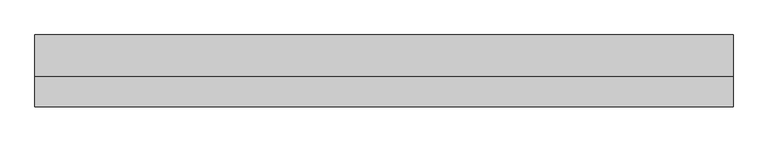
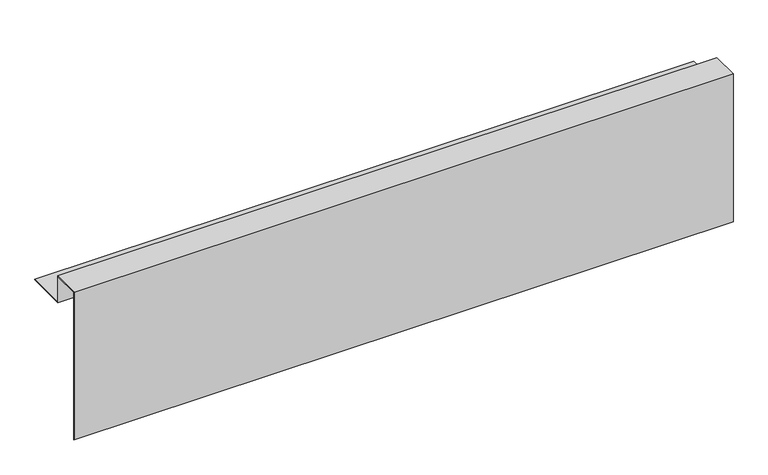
"""IFC4 building model written with IfcOpenShell, lengths in millimetres: proxy geometry, Верхний откос : Тип."""

import ifcopenshell
import ifcopenshell.guid

model = None  # the IFC model being written
_history = None  # IfcOwnerHistory: only IFC2X3 demands one
_inside = {}  # id of a spatial element -> (the spatial element, [elements in it])
_under = {}  # id of a project, library or spatial element -> (it, [spatial elements below it])
_declared = {}  # id of a project -> (the project, [libraries it declares])
_typed = {}  # id of a type object -> (the type object, [elements of that type])
_made_of = {}  # id of a material, layer set ... -> (it, [elements and type objects made of it])


def new_model(schema):
    """Start an empty IFC model of exactly this schema.

    Asked for "IFC4X3", IfcOpenShell would pick the latest addendum, in which some entities
    have other attributes; the version numbers below select the first issue.
    IFC2X3 requires an IfcOwnerHistory on every rooted entity: one is made here for all.
    """
    global model, _history
    if schema == "IFC4X3":
        model = ifcopenshell.file(schema_version=(4, 3, 0, 0))
    else:
        model = ifcopenshell.file(schema=schema)
    _inside.clear()
    _under.clear()
    _declared.clear()
    _typed.clear()
    _made_of.clear()
    _history = None
    if model.schema == "IFC2X3":
        org = make("IfcOrganization", Name="unknown")
        user = make(
            "IfcPersonAndOrganization",
            ThePerson=make("IfcPerson", FamilyName="unknown"),
            TheOrganization=org,
        )
        app = make(
            "IfcApplication",
            ApplicationDeveloper=org,
            Version="unknown",
            ApplicationFullName="unknown",
            ApplicationIdentifier="unknown",
        )
        _history = make(
            "IfcOwnerHistory",
            OwningUser=user,
            OwningApplication=app,
            ChangeAction="ADDED",
            CreationDate=0,
        )
    return model


def make(cls, **values):
    """One entity of the class cls with the attributes given. An attribute that is None is left unset."""
    return model.create_entity(
        cls, **{name: value for name, value in values.items() if value is not None}
    )


def rooted(cls, **values):
    """An entity with a GlobalId (a new one), such as an element, a storey or a relation."""
    return make(cls, GlobalId=ifcopenshell.guid.new(), OwnerHistory=_history, **values)


def si_unit(unit_type, name, prefix=None):
    """IfcSIUnit, for example si_unit("LENGTHUNIT", "METRE", prefix="MILLI")."""
    return make("IfcSIUnit", UnitType=unit_type, Prefix=prefix, Name=name)


def assignment(units):
    """IfcUnitAssignment: the units of a project."""
    return None if units is None else make("IfcUnitAssignment", Units=units)


def point(xyz):
    """IfcCartesianPoint."""
    return None if xyz is None else make("IfcCartesianPoint", Coordinates=xyz)


def direction(xyz):
    """IfcDirection."""
    return None if xyz is None else make("IfcDirection", DirectionRatios=xyz)


def frame(location, z_axis=None, x_axis=None):
    """IfcAxis2Placement3D, a coordinate frame: its origin and axes. An axis left out is left unset."""
    return make(
        "IfcAxis2Placement3D",
        Location=point(location),
        Axis=direction(z_axis),
        RefDirection=direction(x_axis),
    )


def origin():
    """The frame at (0, 0, 0) with its axes left unset."""
    return frame((0.0, 0.0, 0.0))


def place(relative_to, where):
    """IfcLocalPlacement: puts the frame where relative to a parent placement (None: the world)."""
    return make(
        "IfcLocalPlacement", PlacementRelTo=relative_to, RelativePlacement=where
    )


def context(
    kind, dimensions, precision=None, world=None, true_north=None, identifier=None
):
    """IfcGeometricRepresentationContext, for example the 3D "Model" context."""
    return make(
        "IfcGeometricRepresentationContext",
        ContextIdentifier=identifier,
        ContextType=kind,
        CoordinateSpaceDimension=dimensions,
        Precision=precision,
        WorldCoordinateSystem=world,
        TrueNorth=true_north,
    )


def project(units=None, contexts=None):
    """IfcProject with its units and contexts."""
    return rooted(
        "IfcProject",
        Name="project",
        RepresentationContexts=contexts,
        UnitsInContext=assignment(units),
    )


def spatial(cls, under=None, at=None, **own):
    """A site, building, storey or space (cls), placed at a placement, below another one or the project."""
    s = rooted(cls, ObjectPlacement=at, **own)
    if under is not None:
        _under.setdefault(under.id(), (under, []))[1].append(s)
    return s


def polyline(points):
    """IfcPolyline through the points."""
    return make("IfcPolyline", Points=[point(p) for p in points])


def outline(outer, holes=None, kind="AREA"):
    """IfcArbitraryClosedProfileDef: a profile drawn as a closed curve; with holes, ...WithVoids."""
    if holes is None:
        return make("IfcArbitraryClosedProfileDef", ProfileType=kind, OuterCurve=outer)
    return make(
        "IfcArbitraryProfileDefWithVoids",
        ProfileType=kind,
        OuterCurve=outer,
        InnerCurves=holes,
    )


def extrude(swept, where, along, depth):
    """IfcExtrudedAreaSolid: the profile swept, set in the frame where, extruded along a direction by depth."""
    return make(
        "IfcExtrudedAreaSolid",
        SweptArea=swept,
        Position=where,
        ExtrudedDirection=direction(along),
        Depth=depth,
    )


def shape(context_of_items, identifier, shape_type, items):
    """IfcShapeRepresentation: the items that make up one representation, for example the "Body"."""
    return make(
        "IfcShapeRepresentation",
        ContextOfItems=context_of_items,
        RepresentationIdentifier=identifier,
        RepresentationType=shape_type,
        Items=items,
    )


def source(mapping_origin, context_of_items, identifier, shape_type, items):
    """IfcRepresentationMap: a shape defined once, which mapped items show again and again."""
    return make(
        "IfcRepresentationMap",
        MappingOrigin=mapping_origin,
        MappedRepresentation=shape(context_of_items, identifier, shape_type, items),
    )


def transform(
    local_origin,
    x_axis=None,
    y_axis=None,
    z_axis=None,
    scale=None,
    scale2=None,
    scale3=None,
    uniform=True,
):
    """IfcCartesianTransformationOperator3D, or its non-uniform kind. x_axis, y_axis, z_axis: its Axis1, 2, 3."""
    if uniform:
        return make(
            "IfcCartesianTransformationOperator3D",
            Axis1=direction(x_axis),
            Axis2=direction(y_axis),
            LocalOrigin=point(local_origin),
            Scale=scale,
            Axis3=direction(z_axis),
        )
    return make(
        "IfcCartesianTransformationOperator3DnonUniform",
        Axis1=direction(x_axis),
        Axis2=direction(y_axis),
        LocalOrigin=point(local_origin),
        Scale=scale,
        Axis3=direction(z_axis),
        Scale2=scale2,
        Scale3=scale3,
    )


def mapped(mapping_source, mapping_target):
    """IfcMappedItem: shows the shape of a source again, moved by a transform."""
    return make(
        "IfcMappedItem", MappingSource=mapping_source, MappingTarget=mapping_target
    )


def made_of(thing, what):
    """Note that an element or type object is made of a material, layer set ...; save() writes the relation."""
    if what is not None:
        _made_of.setdefault(what.id(), (what, []))[1].append(thing)
    return thing


def element(
    cls,
    number,
    at=None,
    inside=None,
    cuts=None,
    type_object=None,
    material=None,
    context=None,
    identifier="Body",
    shape_type=None,
    held_by="IfcProductDefinitionShape",
    body=None,
    shapes=None,
    **own,
):
    """One element of the class cls, such as IfcWall. Its Tag is "e" and its number.

    at: its placement. inside: the storey or other place that contains it. cuts: it is an
    opening in that element (IfcRelVoidsElement). A single representation is given by context,
    identifier, shape_type and body (its items); several are given by shapes. held_by: the class
    of the entity that holds the representations. save() writes the other relations.
    """
    e = rooted(cls, Tag="e%d" % number, ObjectPlacement=at, **own)
    if body is not None:
        shapes = [shape(context, identifier, shape_type, body)]
    if shapes is not None:
        e.Representation = make(held_by, Representations=shapes)
    if inside is not None:
        _inside.setdefault(inside.id(), (inside, []))[1].append(e)
    if cuts is not None:
        rooted(
            "IfcRelVoidsElement", RelatingBuildingElement=cuts, RelatedOpeningElement=e
        )
    if type_object is not None:
        _typed.setdefault(type_object.id(), (type_object, []))[1].append(e)
    return made_of(e, material)


def aggregate(whole, parts):
    """IfcRelAggregates: a whole, such as a stair, and the parts it consists of."""
    return rooted("IfcRelAggregates", RelatingObject=whole, RelatedObjects=parts)


def save(model, path):
    """Write the relations noted so far, then the file.

    IfcRelAggregates (storeys below a building ...), IfcRelContainedInSpatialStructure (elements
    in a storey), IfcRelDefinesByType, IfcRelAssociatesMaterial and IfcRelDeclares: one each for
    every whole, place, type object, material and project.
    """
    for whole, parts in _under.values():
        aggregate(whole, parts)
    for where, things in _inside.values():
        rooted(
            "IfcRelContainedInSpatialStructure",
            RelatedElements=things,
            RelatingStructure=where,
        )
    for kind, things in _typed.values():
        rooted("IfcRelDefinesByType", RelatedObjects=things, RelatingType=kind)
    for what, things in _made_of.values():
        rooted("IfcRelAssociatesMaterial", RelatedObjects=things, RelatingMaterial=what)
    for by, libraries in _declared.values():
        rooted("IfcRelDeclares", RelatingContext=by, RelatedDefinitions=libraries)
    model.write(path)


def generic_models_99237ce8(model_context):
    return source(origin(), model_context, "Body", "SweptSolid", [
        extrude(outline(polyline([(-1.0, -19.2), (69.0, -19.2), (69.0, -20.0), (-1.8, -20.0), (-1.8, 29.2), (-50.2, 29.2), (-50.2, -247.0), (-51.0, -247.0), (-51.0, 30.0), (-1.0, 30.0), (-1.0, -19.2)])), frame((0.0, 0.0, 0.0), z_axis=(1.0, 0.0, 0.0), x_axis=(0.0, 1.0, 0.0)), (0.0, 0.0, 1.0), 1167.0),
    ])


if __name__ == "__main__":
    model = new_model("IFC4")
    model_context = context("Model", 3, world=origin())
    ifc_project = project(units=[si_unit("LENGTHUNIT", "METRE", prefix="MILLI")], contexts=[model_context])
    site = spatial("IfcSite", under=ifc_project)
    building = spatial("IfcBuilding", under=site)
    placement = place(None, origin())
    generic_models_shape = generic_models_99237ce8(model_context)
    element("IfcBuildingElementProxy", 1, Name="Верхний откос : Тип", ObjectType="Верхний откос : Тип", at=placement, inside=building, context=model_context, shape_type="MappedRepresentation", body=[
        mapped(generic_models_shape, transform((0.0, 0.0, 0.0), x_axis=(1.0, 0.0, 0.0), y_axis=(0.0, 1.0, 0.0), z_axis=(0.0, 0.0, 1.0))),
    ])
    save(model, "model.ifc")
